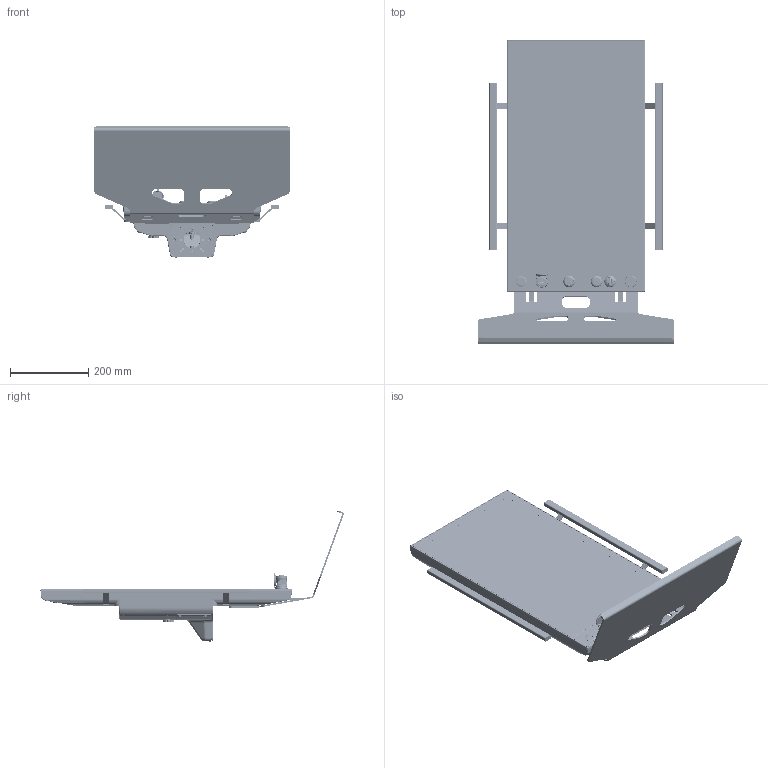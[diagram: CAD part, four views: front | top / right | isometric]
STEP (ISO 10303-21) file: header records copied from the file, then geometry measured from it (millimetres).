
FILE_DESCRIPTION (( 'STEP AP214' ), '1' );
FILE_NAME ('DIMA VK3500P-BA 24.0 BOTTOM ARM CON MANIGLIE E PORTA TASTIERA.STEP', '2021-09-14T10:07:24', ( '' ), ( '' ), 'SwSTEP 2.0', 'SolidWorks 2021', '' );
FILE_SCHEMA (( 'AUTOMOTIVE_DESIGN' ));
Length unit declared in the file: millimetre
Products named in the file (34): 57836084; 26140000; 21507074; DIMA VK3500P-BA 24.0 BOTTOM ARM CON MANIGLIE E PORTA TASTIERA; 57836083_Default<A macchina>; 59836032; 26020043; 69111021; 55688019; 48000080; 59836033SLDASM; 56600719; 69111016; 56636972_Default<A macchina>; 56236074; 26020035; 66811015; 56636969; 69111017; 56202012; 26020037; 56202011; 69111035; 56600724; 55600023; 50342043; 93657770; 60290002; 66711011; 55455178; kit_posteriore_arm_usb3; 56600718; 26020033; 57342391
Assembly tree (56 placements, depth 4):
  DIMA VK3500P-BA 24.0 BOTTOM ARM CON MANIGLIE E PORTA TASTIERA
    56600719
      56600718
        56636969
        50342043
        55455178
      55600023
        55688019
        48000080
        21507074
    56600724
      56636972_Default<A macchina>
      57342391
    57836084
      57836083_Default<A macchina>
    kit_posteriore_arm_usb3
    60290002  x6
    69111021  x2
    56236074  x2
    56202012  x4
      56202011
    66811015  x8
    69111035  x4
    69111017  x2
    69111016  x2
    66711011  x2
    59836033SLDASM
      59836032
    26020037
    26020033
    26020035
    26140000
    26020043
    93657770
Bounding box: 500 x 776.48 x 336.22 mm (x, y, z)
Volume: 2648863.8 mm3; surface area: 2164304.3 mm2
Topology: 94 solids, 192 shells, 9962 faces, 26535 edges, 16927 vertices
Faces by surface type: plane 4561, cylinder 2744, cone 1286, bspline 973, torus 300, sphere 98
Entity records: 449369 total; most frequent: CARTESIAN_POINT 174316, ORIENTED_EDGE 48479, DIRECTION 42430, EDGE_CURVE 24840, VERTEX_POINT 15924, AXIS2_PLACEMENT_3D 15052, VECTOR 12326, LINE 12326
